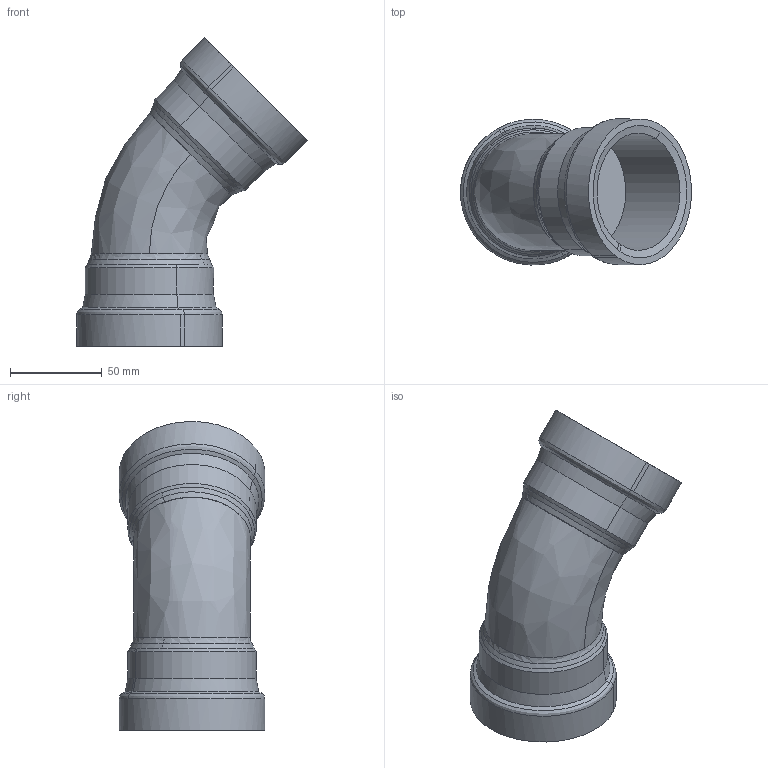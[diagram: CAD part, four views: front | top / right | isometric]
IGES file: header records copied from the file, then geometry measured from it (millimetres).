
Start section: 3D InterOp IGES (Version 25 0 1), Spatial Corp. Copyright (c) 1999-2007.
Global section: file name: pim0003010.igs; native system: Spatial Corp.; preprocessor: 3D InterOp ACIS/IGES; author: CAD-PIM; organization: TransMagic, Inc.; date: 20150319.141055; units: millimetre
Bounding box: 125.95 x 79.44 x 168.36 mm (x, y, z)
Volume: 342963.3 mm3; surface area: 63269.5 mm2
Topology: 1 solids, 1 shells, 58 faces, 139 edges, 81 vertices
Faces by surface type: bspline 58
